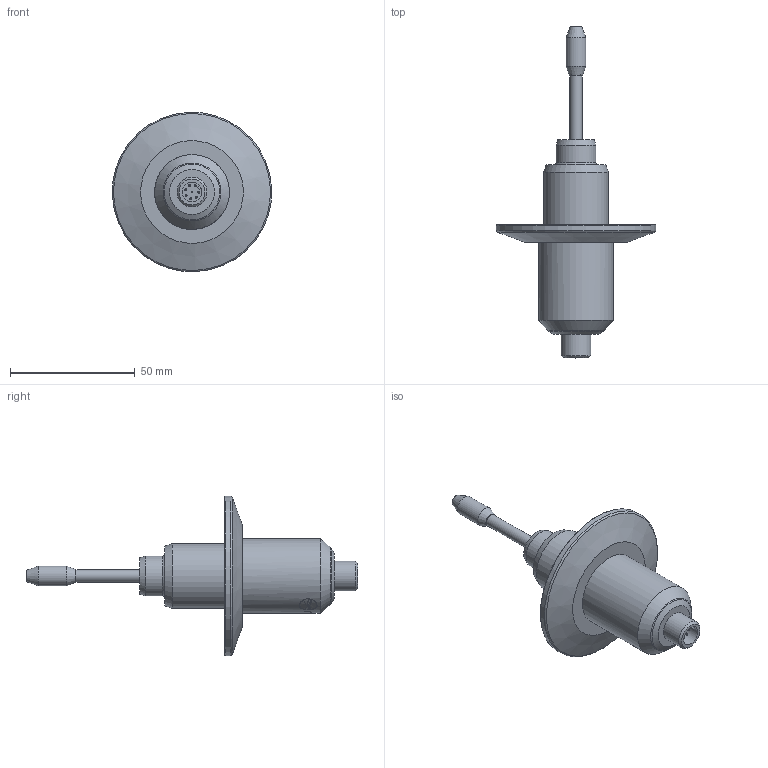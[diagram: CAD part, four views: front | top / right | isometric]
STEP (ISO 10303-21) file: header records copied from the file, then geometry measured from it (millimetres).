
FILE_DESCRIPTION(/* description */ ('Unknown'),/* implementation_level */ '2;1');
FILE_NAME(/* name */ 'SRV-X3-20T',/* time_stamp */ '2024-01-15T15:27:11-05:00',/* author */ ('Unknown'),/* organization */ ('Unknown'),/* preprocessor_version */ 'ST-DEVELOPER v16.7',/* originating_system */ 'Solid Edge',/* authorisation */ 'Unknown');
FILE_SCHEMA (('CONFIG_CONTROL_DESIGN'));
Length unit declared in the file: millimetre
Products named in the file (1): SRV-X3-20T
Bounding box: 63.93 x 133.13 x 63.93 mm (x, y, z)
Volume: 59174.9 mm3; surface area: 14439 mm2
Topology: 1 solids, 1 shells, 173 faces, 444 edges, 295 vertices
Faces by surface type: bspline 71, plane 38, cylinder 38, cone 12, sphere 8, torus 6
Full cylindrical faces by diameter (mm): 0.8 x8, 5.019 x1, 8 x2, 12 x1, 16 x1, 26 x1, 30 x1, 64 x1
Entity records: 9140 total; most frequent: CARTESIAN_POINT 4546, ORIENTED_EDGE 742, DIRECTION 480, EDGE_CURVE 371, VERTEX_POINT 264, EDGE_LOOP 237, FACE_BOUND 237, AXIS2_PLACEMENT_3D 177
